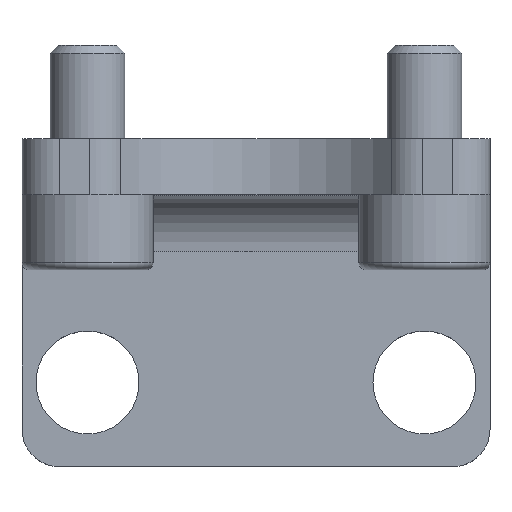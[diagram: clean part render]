
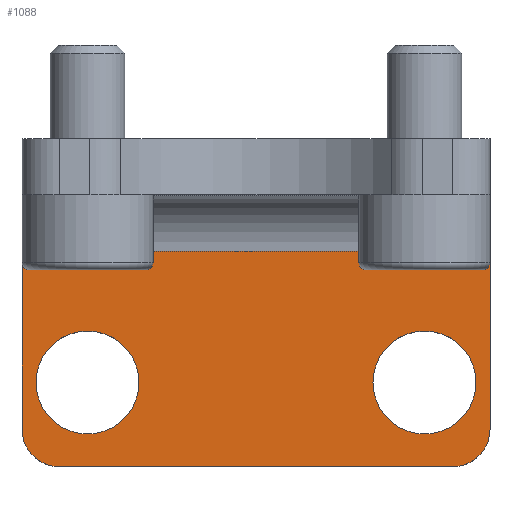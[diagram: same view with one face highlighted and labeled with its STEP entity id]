
A CAD part, top view. The second image highlights one B-rep face of the part: STEP entity #1088.
In plain terms, the highlighted planar face has unit normal (0, 0, 1).
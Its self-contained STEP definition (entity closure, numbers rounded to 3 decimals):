
#90=LINE('',#1841,#162);
#96=LINE('',#1857,#168);
#102=LINE('',#1876,#174);
#103=LINE('',#1878,#175);
#162=VECTOR('',#1491,10.);
#168=VECTOR('',#1507,10.);
#174=VECTOR('',#1537,10.);
#175=VECTOR('',#1540,10.);
#205=FACE_BOUND('',#327,.T.);
#206=FACE_BOUND('',#328,.T.);
#262=FACE_OUTER_BOUND('',#326,.T.);
#326=EDGE_LOOP('',(#937,#938,#939,#940,#941,#942));
#327=EDGE_LOOP('',(#943));
#328=EDGE_LOOP('',(#944));
#374=CIRCLE('',#1186,2.75);
#377=CIRCLE('',#1190,2.75);
#385=CIRCLE('',#1207,2.);
#388=CIRCLE('',#1213,2.);
#467=VERTEX_POINT('',#1776);
#470=VERTEX_POINT('',#1784);
#483=VERTEX_POINT('',#1828);
#484=VERTEX_POINT('',#1829);
#488=VERTEX_POINT('',#1839);
#492=VERTEX_POINT('',#1851);
#493=VERTEX_POINT('',#1855);
#494=VERTEX_POINT('',#1872);
#594=EDGE_CURVE('',#467,#467,#374,.T.);
#598=EDGE_CURVE('',#470,#470,#377,.T.);
#619=EDGE_CURVE('',#483,#484,#385,.T.);
#625=EDGE_CURVE('',#488,#483,#90,.T.);
#630=EDGE_CURVE('',#492,#488,#388,.T.);
#633=EDGE_CURVE('',#493,#492,#96,.T.);
#643=EDGE_CURVE('',#493,#494,#102,.T.);
#644=EDGE_CURVE('',#484,#494,#103,.T.);
#937=ORIENTED_EDGE('',*,*,#619,.F.);
#938=ORIENTED_EDGE('',*,*,#625,.F.);
#939=ORIENTED_EDGE('',*,*,#630,.F.);
#940=ORIENTED_EDGE('',*,*,#633,.F.);
#941=ORIENTED_EDGE('',*,*,#643,.T.);
#942=ORIENTED_EDGE('',*,*,#644,.F.);
#943=ORIENTED_EDGE('',*,*,#594,.T.);
#944=ORIENTED_EDGE('',*,*,#598,.T.);
#975=PLANE('',#1228);
#1088=ADVANCED_FACE('',(#262,#205,#206),#975,.T.);
#1186=AXIS2_PLACEMENT_3D('',#1778,#1425,#1426);
#1190=AXIS2_PLACEMENT_3D('',#1786,#1434,#1435);
#1207=AXIS2_PLACEMENT_3D('',#1830,#1481,#1482);
#1213=AXIS2_PLACEMENT_3D('',#1852,#1501,#1502);
#1228=AXIS2_PLACEMENT_3D('',#1879,#1541,#1542);
#1425=DIRECTION('center_axis',(0.,0.,
-1.));
#1426=DIRECTION('ref_axis',(1.,0.,0.));
#1434=DIRECTION('center_axis',(0.,0.,
-1.));
#1435=DIRECTION('ref_axis',(1.,0.,0.));
#1481=DIRECTION('center_axis',(0.,0.,
-1.));
#1482=DIRECTION('ref_axis',(-0.707,-0.707,0.));
#1491=DIRECTION('',(-1.,0.,0.));
#1501=DIRECTION('center_axis',(0.,0.,
-1.));
#1502=DIRECTION('ref_axis',(0.707,-0.707,0.));
#1507=DIRECTION('',(0.,-1.,0.));
#1537=DIRECTION('',(-1.,0.,0.));
#1540=DIRECTION('',(0.,1.,0.));
#1541=DIRECTION('center_axis',(0.,0.,
1.));
#1542=DIRECTION('ref_axis',(-1.,0.,0.));
#1776=CARTESIAN_POINT('',(6.25,4.5,3.));
#1778=CARTESIAN_POINT('Origin',(9.,4.5,3.));
#1784=CARTESIAN_POINT('',(-11.75,4.5,3.));
#1786=CARTESIAN_POINT('Origin',(-9.,4.5,3.));
#1828=CARTESIAN_POINT('',(-10.5,0.,3.));
#1829=CARTESIAN_POINT('',(-12.5,2.,3.));
#1830=CARTESIAN_POINT('Origin',(-10.5,2.,3.));
#1839=CARTESIAN_POINT('',(10.5,0.,3.));
#1841=CARTESIAN_POINT('',(-12.5,0.,3.));
#1851=CARTESIAN_POINT('',(12.5,2.,3.));
#1852=CARTESIAN_POINT('Origin',(10.5,2.,3.));
#1855=CARTESIAN_POINT('',(12.5,11.5,3.));
#1857=CARTESIAN_POINT('',(12.5,0.,3.));
#1872=CARTESIAN_POINT('',(-12.5,11.5,3.));
#1876=CARTESIAN_POINT('',(-6.25,11.5,3.));
#1878=CARTESIAN_POINT('',(-12.5,17.5,3.));
#1879=CARTESIAN_POINT('Origin',(0.,8.75,3.));
